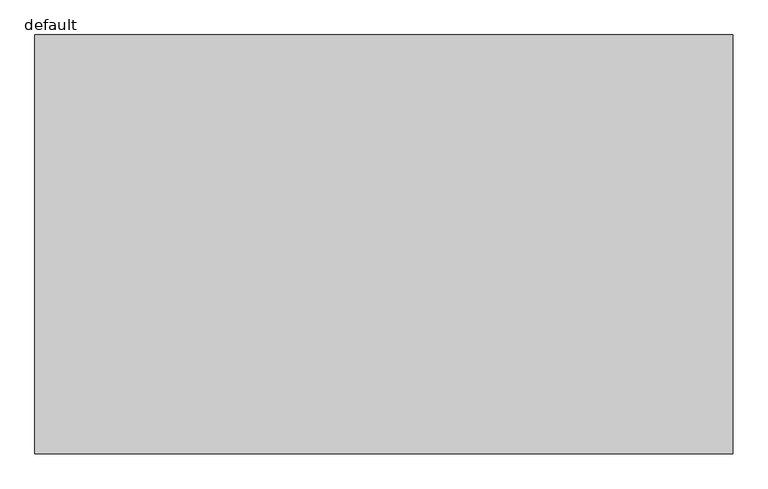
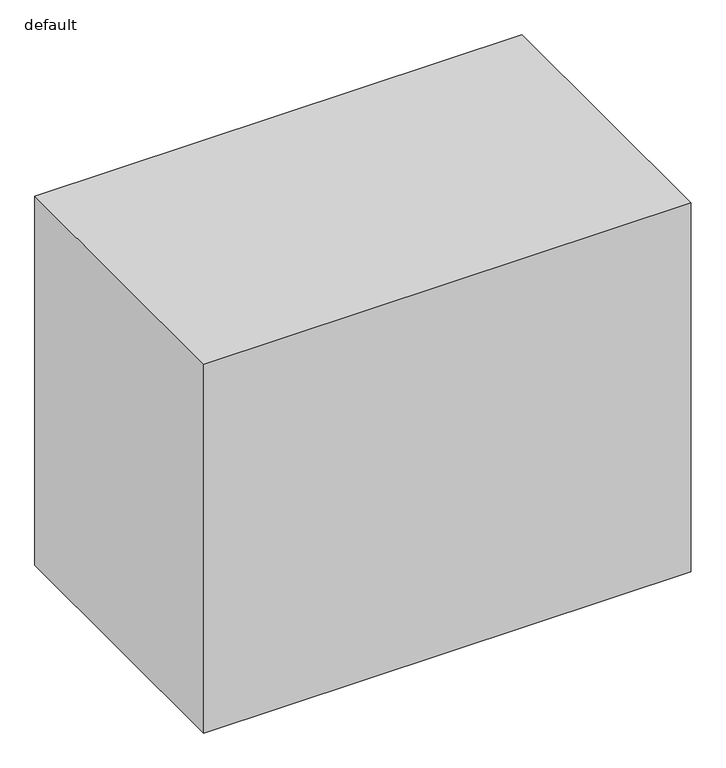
"""IFC4 building model written with IfcOpenShell, lengths in millimetres: furniture geometry, Fu_кухонный напольный модуль_LEG : default."""

from ifc_helpers import new_model, si_unit, origin, origin_with_axes, place, context, project, spatial, polyline, outline, extrude, source, transform, mapped, element, save


def default_af4afc4e(model_context):
    return source(origin(), model_context, "Body", "SweptSolid", [
        extrude(outline(polyline([(1000.0, 0.0), (1000.0, -600.0), (0.0, -600.0), (0.0, 0.0), (1000.0, 0.0)])), origin_with_axes(), (0.0, 0.0, 1.0), 800.0),
    ])


if __name__ == "__main__":
    model = new_model("IFC4")
    model_context = context("Model", 3, world=origin())
    ifc_project = project(units=[si_unit("LENGTHUNIT", "METRE", prefix="MILLI")], contexts=[model_context])
    site = spatial("IfcSite", under=ifc_project)
    building = spatial("IfcBuilding", under=site)
    placement = place(None, origin())
    default_shape = default_af4afc4e(model_context)
    element("IfcFurniture", 1, ObjectType="Fu_кухонный напольный модуль_LEG : default", at=placement, inside=building, context=model_context, shape_type="MappedRepresentation", body=[
        mapped(default_shape, transform((0.0, 0.0, 0.0), x_axis=(1.0, 0.0, 0.0), y_axis=(0.0, 1.0, 0.0), z_axis=(0.0, 0.0, 1.0))),
    ])
    save(model, "model.ifc")
